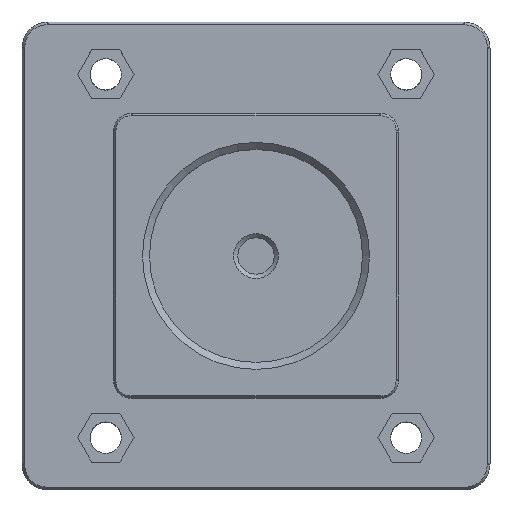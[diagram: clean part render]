
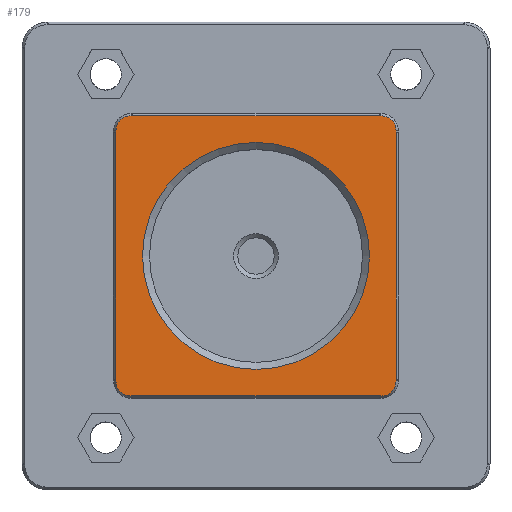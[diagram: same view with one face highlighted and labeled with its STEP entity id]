
A CAD part, top view. The second image highlights one B-rep face of the part: STEP entity #179.
In plain terms, the highlighted planar face has unit normal (0, 0, 1).
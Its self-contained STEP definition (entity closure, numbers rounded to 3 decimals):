
#159 = VERTEX_POINT('',#160);
#160 = CARTESIAN_POINT('',(16.25,0.,14.));
#168 = EDGE_CURVE('',#159,#159,#169,.T.);
#169 = CIRCLE('',#170,16.25);
#170 = AXIS2_PLACEMENT_3D('',#171,#172,#173);
#171 = CARTESIAN_POINT('',(0.,0.,14.));
#172 = DIRECTION('',(0.,0.,1.));
#173 = DIRECTION('',(-1.,0.,0.));
#179 = ADVANCED_FACE('',(#180,#326),#329,.T.);
#180 = FACE_BOUND('',#181,.T.);
#181 = EDGE_LOOP('',(#182,#192,#201,#211,#220,#228,#237,#247,#256,#264,
    #273,#283,#292,#300,#309,#319));
#182 = ORIENTED_EDGE('',*,*,#183,.F.);
#183 = EDGE_CURVE('',#184,#186,#188,.T.);
#184 = VERTEX_POINT('',#185);
#185 = CARTESIAN_POINT('',(20.05,17.658,14.));
#186 = VERTEX_POINT('',#187);
#187 = CARTESIAN_POINT('',(20.05,-17.658,14.));
#188 = LINE('',#189,#190);
#189 = CARTESIAN_POINT('',(20.05,8.6,14.));
#190 = VECTOR('',#191,1.);
#191 = DIRECTION('',(0.,-1.,0.));
#192 = ORIENTED_EDGE('',*,*,#193,.F.);
#193 = EDGE_CURVE('',#194,#184,#196,.T.);
#194 = VERTEX_POINT('',#195);
#195 = CARTESIAN_POINT('',(20.05,17.895,14.));
#196 = B_SPLINE_CURVE_WITH_KNOTS('',3,(#197,#198,#199,#200),
  .UNSPECIFIED.,.F.,.F.,(4,4),(0.275,0.299),
  .PIECEWISE_BEZIER_KNOTS.);
#197 = CARTESIAN_POINT('',(20.05,17.895,14.));
#198 = CARTESIAN_POINT('',(20.05,17.816,14.));
#199 = CARTESIAN_POINT('',(20.05,17.737,14.));
#200 = CARTESIAN_POINT('',(20.05,17.658,14.));
#201 = ORIENTED_EDGE('',*,*,#202,.F.);
#202 = EDGE_CURVE('',#203,#194,#205,.T.);
#203 = VERTEX_POINT('',#204);
#204 = CARTESIAN_POINT('',(17.895,20.05,14.));
#205 = B_SPLINE_CURVE_WITH_KNOTS('',3,(#206,#207,#208,#209,#210),
  .UNSPECIFIED.,.F.,.F.,(4,1,4),(-0.707,-0.101,
    0.707),.UNSPECIFIED.);
#206 = CARTESIAN_POINT('',(17.895,20.05,14.));
#207 = CARTESIAN_POINT('',(18.424,20.05,14.));
#208 = CARTESIAN_POINT('',(19.54,19.671,14.));
#209 = CARTESIAN_POINT('',(20.05,18.6,14.));
#210 = CARTESIAN_POINT('',(20.05,17.895,14.));
#211 = ORIENTED_EDGE('',*,*,#212,.F.);
#212 = EDGE_CURVE('',#213,#203,#215,.T.);
#213 = VERTEX_POINT('',#214);
#214 = CARTESIAN_POINT('',(17.658,20.05,14.));
#215 = B_SPLINE_CURVE_WITH_KNOTS('',3,(#216,#217,#218,#219),
  .UNSPECIFIED.,.F.,.F.,(4,4),(3.831,3.855),
  .PIECEWISE_BEZIER_KNOTS.);
#216 = CARTESIAN_POINT('',(17.658,20.05,14.));
#217 = CARTESIAN_POINT('',(17.737,20.05,14.));
#218 = CARTESIAN_POINT('',(17.816,20.05,14.));
#219 = CARTESIAN_POINT('',(17.895,20.05,14.));
#220 = ORIENTED_EDGE('',*,*,#221,.F.);
#221 = EDGE_CURVE('',#222,#213,#224,.T.);
#222 = VERTEX_POINT('',#223);
#223 = CARTESIAN_POINT('',(-17.658,20.05,14.));
#224 = LINE('',#225,#226);
#225 = CARTESIAN_POINT('',(-8.6,20.05,14.));
#226 = VECTOR('',#227,1.);
#227 = DIRECTION('',(1.,0.,0.));
#228 = ORIENTED_EDGE('',*,*,#229,.F.);
#229 = EDGE_CURVE('',#230,#222,#232,.T.);
#230 = VERTEX_POINT('',#231);
#231 = CARTESIAN_POINT('',(-17.895,20.05,14.));
#232 = B_SPLINE_CURVE_WITH_KNOTS('',3,(#233,#234,#235,#236),
  .UNSPECIFIED.,.F.,.F.,(4,4),(0.275,0.299),
  .PIECEWISE_BEZIER_KNOTS.);
#233 = CARTESIAN_POINT('',(-17.895,20.05,14.));
#234 = CARTESIAN_POINT('',(-17.816,20.05,14.));
#235 = CARTESIAN_POINT('',(-17.737,20.05,14.));
#236 = CARTESIAN_POINT('',(-17.658,20.05,14.));
#237 = ORIENTED_EDGE('',*,*,#238,.F.);
#238 = EDGE_CURVE('',#239,#230,#241,.T.);
#239 = VERTEX_POINT('',#240);
#240 = CARTESIAN_POINT('',(-20.05,17.895,14.));
#241 = B_SPLINE_CURVE_WITH_KNOTS('',3,(#242,#243,#244,#245,#246),
  .UNSPECIFIED.,.F.,.F.,(4,1,4),(-0.707,-0.101,
    0.707),.QUASI_UNIFORM_KNOTS.);
#242 = CARTESIAN_POINT('',(-20.05,17.895,14.));
#243 = CARTESIAN_POINT('',(-20.05,18.424,14.));
#244 = CARTESIAN_POINT('',(-19.671,19.54,14.));
#245 = CARTESIAN_POINT('',(-18.6,20.05,14.));
#246 = CARTESIAN_POINT('',(-17.895,20.05,14.));
#247 = ORIENTED_EDGE('',*,*,#248,.F.);
#248 = EDGE_CURVE('',#249,#239,#251,.T.);
#249 = VERTEX_POINT('',#250);
#250 = CARTESIAN_POINT('',(-20.05,17.658,14.));
#251 = B_SPLINE_CURVE_WITH_KNOTS('',3,(#252,#253,#254,#255),
  .UNSPECIFIED.,.F.,.F.,(4,4),(3.831,3.855),
  .PIECEWISE_BEZIER_KNOTS.);
#252 = CARTESIAN_POINT('',(-20.05,17.658,14.));
#253 = CARTESIAN_POINT('',(-20.05,17.737,14.));
#254 = CARTESIAN_POINT('',(-20.05,17.816,14.));
#255 = CARTESIAN_POINT('',(-20.05,17.895,14.));
#256 = ORIENTED_EDGE('',*,*,#257,.F.);
#257 = EDGE_CURVE('',#258,#249,#260,.T.);
#258 = VERTEX_POINT('',#259);
#259 = CARTESIAN_POINT('',(-20.05,-17.658,14.));
#260 = LINE('',#261,#262);
#261 = CARTESIAN_POINT('',(-20.05,-8.6,14.));
#262 = VECTOR('',#263,1.);
#263 = DIRECTION('',(0.,1.,0.));
#264 = ORIENTED_EDGE('',*,*,#265,.F.);
#265 = EDGE_CURVE('',#266,#258,#268,.T.);
#266 = VERTEX_POINT('',#267);
#267 = CARTESIAN_POINT('',(-20.05,-17.895,14.));
#268 = B_SPLINE_CURVE_WITH_KNOTS('',3,(#269,#270,#271,#272),
  .UNSPECIFIED.,.F.,.F.,(4,4),(0.275,0.299),
  .PIECEWISE_BEZIER_KNOTS.);
#269 = CARTESIAN_POINT('',(-20.05,-17.895,14.));
#270 = CARTESIAN_POINT('',(-20.05,-17.816,14.));
#271 = CARTESIAN_POINT('',(-20.05,-17.737,14.));
#272 = CARTESIAN_POINT('',(-20.05,-17.658,14.));
#273 = ORIENTED_EDGE('',*,*,#274,.F.);
#274 = EDGE_CURVE('',#275,#266,#277,.T.);
#275 = VERTEX_POINT('',#276);
#276 = CARTESIAN_POINT('',(-17.895,-20.05,14.));
#277 = B_SPLINE_CURVE_WITH_KNOTS('',3,(#278,#279,#280,#281,#282),
  .UNSPECIFIED.,.F.,.F.,(4,1,4),(-0.707,-0.101,
    0.707),.UNSPECIFIED.);
#278 = CARTESIAN_POINT('',(-17.895,-20.05,14.));
#279 = CARTESIAN_POINT('',(-18.424,-20.05,14.));
#280 = CARTESIAN_POINT('',(-19.54,-19.671,14.));
#281 = CARTESIAN_POINT('',(-20.05,-18.6,14.));
#282 = CARTESIAN_POINT('',(-20.05,-17.895,14.));
#283 = ORIENTED_EDGE('',*,*,#284,.F.);
#284 = EDGE_CURVE('',#285,#275,#287,.T.);
#285 = VERTEX_POINT('',#286);
#286 = CARTESIAN_POINT('',(-17.658,-20.05,14.));
#287 = B_SPLINE_CURVE_WITH_KNOTS('',3,(#288,#289,#290,#291),
  .UNSPECIFIED.,.F.,.F.,(4,4),(3.831,3.855),
  .PIECEWISE_BEZIER_KNOTS.);
#288 = CARTESIAN_POINT('',(-17.658,-20.05,14.));
#289 = CARTESIAN_POINT('',(-17.737,-20.05,14.));
#290 = CARTESIAN_POINT('',(-17.816,-20.05,14.));
#291 = CARTESIAN_POINT('',(-17.895,-20.05,14.));
#292 = ORIENTED_EDGE('',*,*,#293,.F.);
#293 = EDGE_CURVE('',#294,#285,#296,.T.);
#294 = VERTEX_POINT('',#295);
#295 = CARTESIAN_POINT('',(17.658,-20.05,14.));
#296 = LINE('',#297,#298);
#297 = CARTESIAN_POINT('',(8.6,-20.05,14.));
#298 = VECTOR('',#299,1.);
#299 = DIRECTION('',(-1.,0.,0.));
#300 = ORIENTED_EDGE('',*,*,#301,.F.);
#301 = EDGE_CURVE('',#302,#294,#304,.T.);
#302 = VERTEX_POINT('',#303);
#303 = CARTESIAN_POINT('',(17.895,-20.05,14.));
#304 = B_SPLINE_CURVE_WITH_KNOTS('',3,(#305,#306,#307,#308),
  .UNSPECIFIED.,.F.,.F.,(4,4),(0.275,0.299),
  .PIECEWISE_BEZIER_KNOTS.);
#305 = CARTESIAN_POINT('',(17.895,-20.05,14.));
#306 = CARTESIAN_POINT('',(17.816,-20.05,14.));
#307 = CARTESIAN_POINT('',(17.737,-20.05,14.));
#308 = CARTESIAN_POINT('',(17.658,-20.05,14.));
#309 = ORIENTED_EDGE('',*,*,#310,.F.);
#310 = EDGE_CURVE('',#311,#302,#313,.T.);
#311 = VERTEX_POINT('',#312);
#312 = CARTESIAN_POINT('',(20.05,-17.895,14.));
#313 = B_SPLINE_CURVE_WITH_KNOTS('',3,(#314,#315,#316,#317,#318),
  .UNSPECIFIED.,.F.,.F.,(4,1,4),(-0.707,-0.101,
    0.707),.QUASI_UNIFORM_KNOTS.);
#314 = CARTESIAN_POINT('',(20.05,-17.895,14.));
#315 = CARTESIAN_POINT('',(20.05,-18.424,14.));
#316 = CARTESIAN_POINT('',(19.671,-19.54,14.));
#317 = CARTESIAN_POINT('',(18.6,-20.05,14.));
#318 = CARTESIAN_POINT('',(17.895,-20.05,14.));
#319 = ORIENTED_EDGE('',*,*,#320,.F.);
#320 = EDGE_CURVE('',#186,#311,#321,.T.);
#321 = B_SPLINE_CURVE_WITH_KNOTS('',3,(#322,#323,#324,#325),
  .UNSPECIFIED.,.F.,.F.,(4,4),(3.831,3.855),
  .PIECEWISE_BEZIER_KNOTS.);
#322 = CARTESIAN_POINT('',(20.05,-17.658,14.));
#323 = CARTESIAN_POINT('',(20.05,-17.737,14.));
#324 = CARTESIAN_POINT('',(20.05,-17.816,14.));
#325 = CARTESIAN_POINT('',(20.05,-17.895,14.));
#326 = FACE_BOUND('',#327,.T.);
#327 = EDGE_LOOP('',(#328));
#328 = ORIENTED_EDGE('',*,*,#168,.F.);
#329 = PLANE('',#330);
#330 = AXIS2_PLACEMENT_3D('',#331,#332,#333);
#331 = CARTESIAN_POINT('',(0.,0.,14.));
#332 = DIRECTION('',(0.,0.,1.));
#333 = DIRECTION('',(1.,0.,0.));
